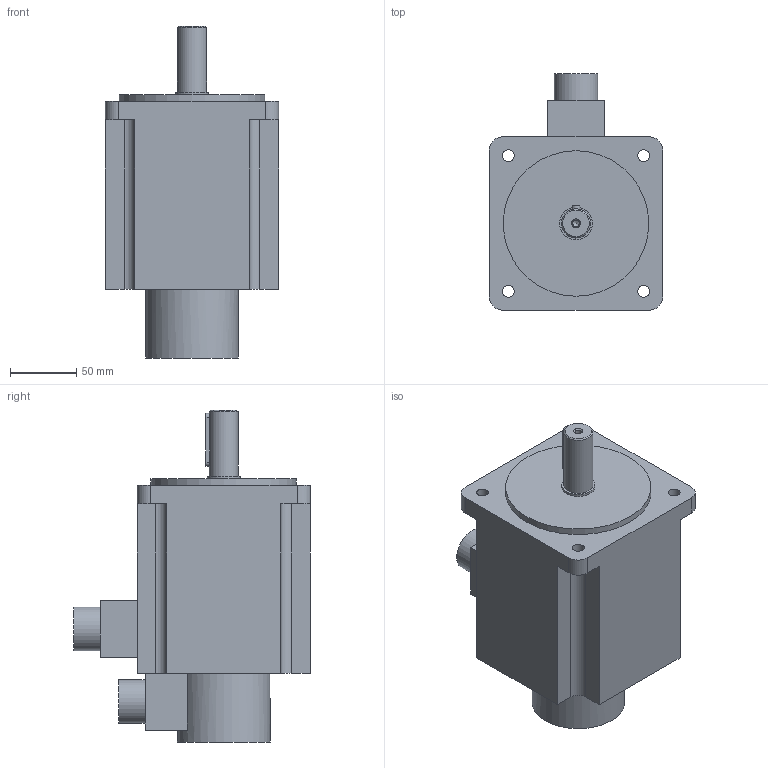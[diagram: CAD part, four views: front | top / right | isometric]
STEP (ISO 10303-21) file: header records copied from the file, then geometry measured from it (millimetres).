
FILE_DESCRIPTION(('STEP AP214'), '1');
FILE_NAME('栫謼鍱睯蜬蠈錪 130ST-M07725', '', ('UNSPECIFIED'), ('UNSPECIFIED'), 'ASCON STEP Converter 1.6', 'ASCON Math Kernel', '');
FILE_SCHEMA(('AUTOMOTIVE_DESIGN { 1 0 10303 214 3 1 1}'));
Length unit declared in the file: millimetre
Bounding box: 131 x 179 x 251 mm (x, y, z)
Volume: 2589265.2 mm3; surface area: 137612.6 mm2
Topology: 2 solids, 2 shells, 66 faces, 159 edges, 105 vertices
Faces by surface type: plane 40, cylinder 23, cone 3
Full cylindrical faces by diameter (mm): 4.917 x1, 9 x4, 22 x1, 24.8 x1, 33 x2, 70 x1, 110 x1
Entity records: 2599 total; most frequent: CARTESIAN_POINT 481, DIRECTION 324, ORIENTED_EDGE 288, EDGE_CURVE 144, AXIS2_PLACEMENT_3D 115, VERTEX_POINT 104, EDGE_LOOP 96, LINE 94
